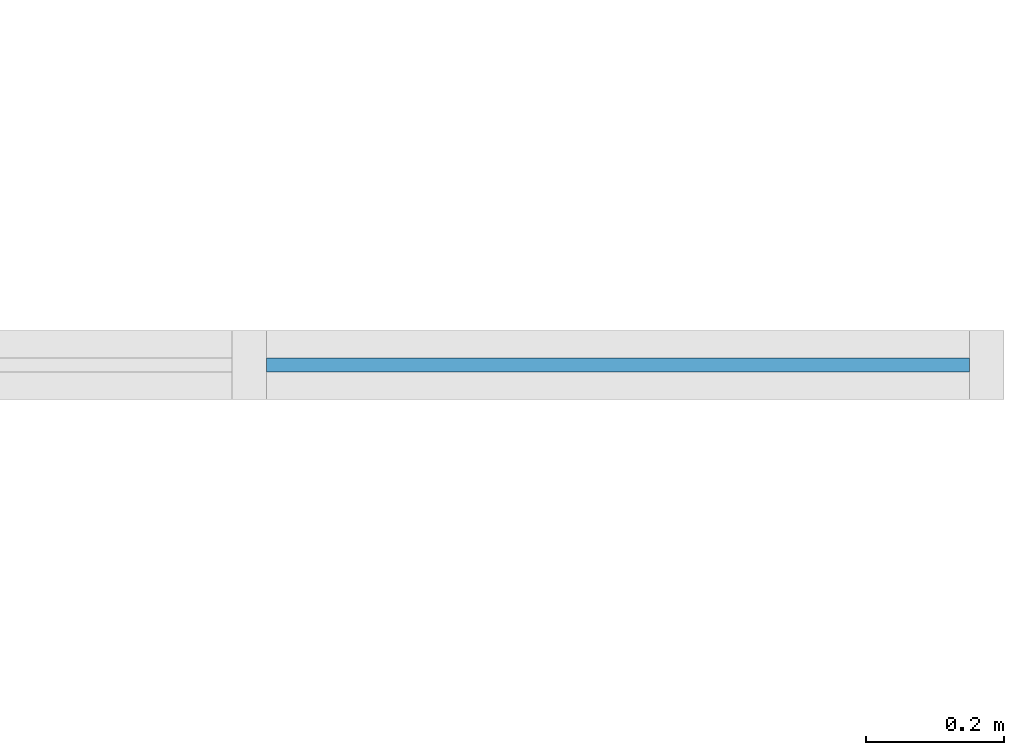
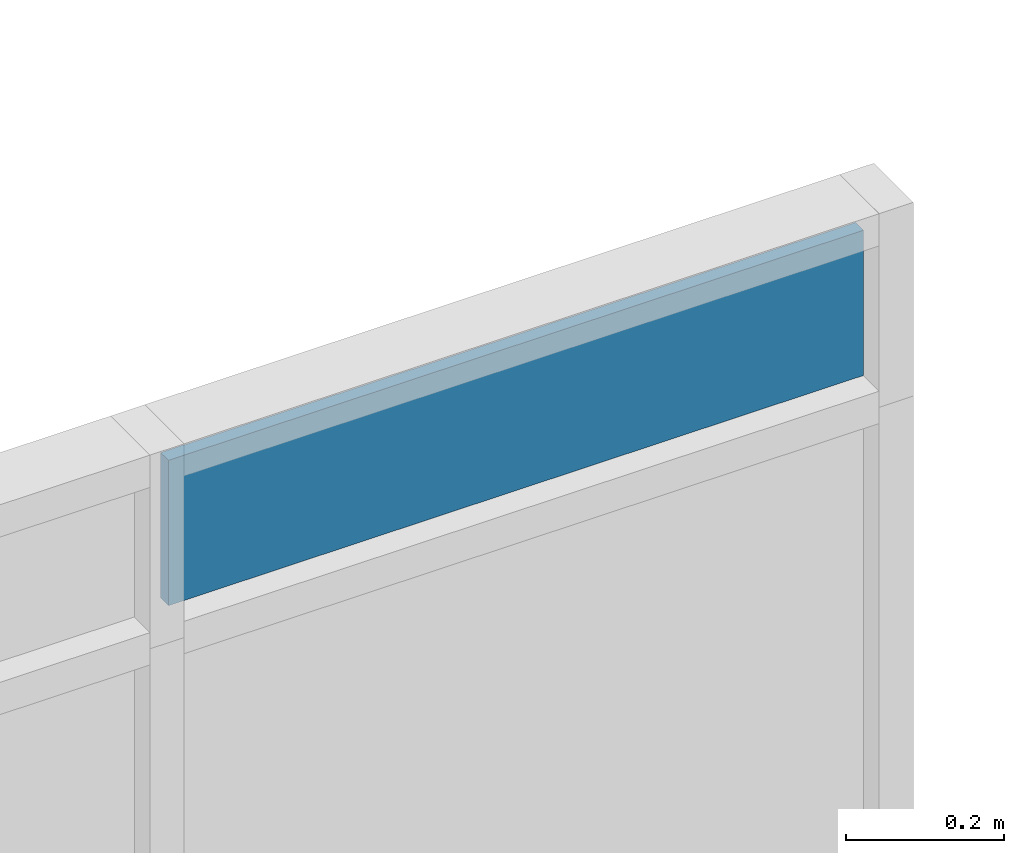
# One storey, part 106 of 153: 1 plate, 1 element without a shape of its own.
"""IFC4 building model written with IfcOpenShell, lengths in metres."""

from ifc_helpers import new_model, entity, si_unit, converted_unit, derived_unit, direction, frame, origin, place, context, subcontext, project, spatial, indexed_curve, outline, extrude, source, transform, mapped, material, type_object, type_shapes, element, aggregate, save


model = new_model("IFC4")

# Units and contexts
model_context = context("Model", 3, precision=1e-05, world=origin(), true_north=direction((6.123031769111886e-17, 1.0)))
body_context = subcontext(model_context, "Body", "Model", "MODEL_VIEW")
ifc_project = project(units=[si_unit("LENGTHUNIT", "METRE"), si_unit("AREAUNIT", "SQUARE_METRE"), si_unit("VOLUMEUNIT", "CUBIC_METRE"), converted_unit("PLANEANGLEUNIT", "DEGREE", entity("IfcRatioMeasure", 0.017453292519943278), si_unit("PLANEANGLEUNIT", "RADIAN"), dimensions=[0, 0, 0, 0, 0, 0, 0]), si_unit("MASSUNIT", "GRAM", prefix="KILO"), derived_unit("MASSDENSITYUNIT", [(si_unit("MASSUNIT", "GRAM", prefix="KILO"), 1), (si_unit("LENGTHUNIT", "METRE"), -3)]), derived_unit("MOMENTOFINERTIAUNIT", [(si_unit("LENGTHUNIT", "METRE"), 4)]), si_unit("TIMEUNIT", "SECOND"), si_unit("FREQUENCYUNIT", "HERTZ"), si_unit("THERMODYNAMICTEMPERATUREUNIT", "DEGREE_CELSIUS"), derived_unit("THERMALTRANSMITTANCEUNIT", [(si_unit("MASSUNIT", "GRAM", prefix="KILO"), 1), (si_unit("THERMODYNAMICTEMPERATUREUNIT", "KELVIN"), -1), (si_unit("TIMEUNIT", "SECOND"), -3)]), derived_unit("VOLUMETRICFLOWRATEUNIT", [(si_unit("LENGTHUNIT", "METRE"), 3), (si_unit("TIMEUNIT", "SECOND"), -1)]), derived_unit("MASSFLOWRATEUNIT", [(si_unit("MASSUNIT", "GRAM", prefix="KILO"), 1), (si_unit("TIMEUNIT", "SECOND"), -1)]), derived_unit("ROTATIONALFREQUENCYUNIT", [(si_unit("TIMEUNIT", "SECOND"), -1)]), si_unit("ELECTRICCURRENTUNIT", "AMPERE"), si_unit("ELECTRICVOLTAGEUNIT", "VOLT"), si_unit("POWERUNIT", "WATT"), si_unit("FORCEUNIT", "NEWTON", prefix="KILO"), si_unit("ILLUMINANCEUNIT", "LUX"), si_unit("LUMINOUSFLUXUNIT", "LUMEN"), si_unit("LUMINOUSINTENSITYUNIT", "CANDELA"), derived_unit("USERDEFINED", [(si_unit("MASSUNIT", "GRAM", prefix="KILO"), -1), (si_unit("LENGTHUNIT", "METRE"), -2), (si_unit("TIMEUNIT", "SECOND"), 3), (si_unit("LUMINOUSFLUXUNIT", "LUMEN"), 1)]), derived_unit("SOUNDPOWERUNIT", [(si_unit("MASSUNIT", "GRAM", prefix="KILO"), 1), (si_unit("LENGTHUNIT", "METRE"), 2), (si_unit("TIMEUNIT", "SECOND"), -3)]), derived_unit("SOUNDPRESSUREUNIT", [(si_unit("MASSUNIT", "GRAM", prefix="KILO"), 1), (si_unit("LENGTHUNIT", "METRE"), -1), (si_unit("TIMEUNIT", "SECOND"), -2)]), derived_unit("LINEARVELOCITYUNIT", [(si_unit("LENGTHUNIT", "METRE"), 1), (si_unit("TIMEUNIT", "SECOND"), -1)]), si_unit("PRESSUREUNIT", "PASCAL"), derived_unit("USERDEFINED", [(si_unit("LENGTHUNIT", "METRE"), -2), (si_unit("MASSUNIT", "GRAM", prefix="KILO"), 1), (si_unit("TIMEUNIT", "SECOND"), -2)]), derived_unit("LINEARFORCEUNIT", [(si_unit("MASSUNIT", "GRAM", prefix="KILO"), 1), (si_unit("LENGTHUNIT", "METRE"), 1), (si_unit("TIMEUNIT", "SECOND"), -2), (si_unit("LENGTHUNIT", "METRE"), -1)]), derived_unit("PLANARFORCEUNIT", [(si_unit("MASSUNIT", "GRAM", prefix="KILO"), 1), (si_unit("LENGTHUNIT", "METRE"), 1), (si_unit("TIMEUNIT", "SECOND"), -2), (si_unit("LENGTHUNIT", "METRE"), -2)])], contexts=[model_context])

# Site, building, storey
site_placement = place(None, origin())
site = spatial("IfcSite", under=ifc_project, at=site_placement, Name="Superficie", CompositionType="ELEMENT")
building_placement = place(site_placement, origin())
building = spatial("IfcBuilding", under=site, at=building_placement, CompositionType="ELEMENT")
storey_placement = place(building_placement, frame((0.0, 0.0, 3.5999999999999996)))
storey = spatial("IfcBuildingStorey", under=building, at=storey_placement, Name="Nivel 1", CompositionType="ELEMENT", Elevation=3.5999999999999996)

# Curtain wall, plate
curtain_wall_type = type_object("IfcCurtainWallType", Name="Muro cortina:Muro cortina - simple", PredefinedType="NOTDEFINED")
curtain_wall_placement = place(storey_placement, frame((0.0, 0.0, -3.5999999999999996)))
curtain_wall = element("IfcCurtainWall", 1, at=curtain_wall_placement, inside=storey, type_object=curtain_wall_type, Name="Muro cortina:Muro cortina - simple", ObjectType="Muro cortina:Muro cortina - simple", PredefinedType="NOTDEFINED")
ifc_material = material(Name="Cristal", Category="Vidrio")
plate_type = type_object("IfcPlateType", Name="Panel de sistema:Acristalado", PredefinedType="CURTAIN_PANEL", material=ifc_material)
shared_shape = source(origin(), body_context, "Body", "SweptSolid", [
    extrude(outline(indexed_curve([(-0.01, -0.5091109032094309), (0.01, -0.5091109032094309), (0.01, 0.5091109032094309), (-0.01, 0.5091109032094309), (-0.01, -0.5091109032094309)], self_intersect=False)), frame((0.0, 0.0, 0.0), z_axis=(0.0, 0.0, 1.0), x_axis=(0.0, 1.0, 0.0)), (0.0, 0.0, 1.0), 0.22500000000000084),
])
type_shapes(plate_type, [shared_shape])
plate_placement = place(curtain_wall_placement, frame((24.8092254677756, 3.290829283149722, 5.195714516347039)))
plate = element("IfcPlate", 2, at=plate_placement, type_object=plate_type, material=ifc_material, Name="Panel de sistema:Acristalado", ObjectType="Panel de sistema:Acristalado", PredefinedType="CURTAIN_PANEL", context=body_context, shape_type="MappedRepresentation", body=[
    mapped(shared_shape, transform((0.0, 0.0, 0.0), scale=1.0)),
])
aggregate(curtain_wall, [plate])

save(model, "model.ifc")
